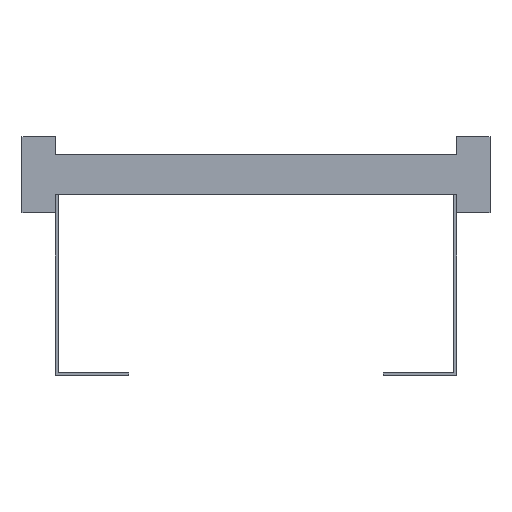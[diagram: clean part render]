
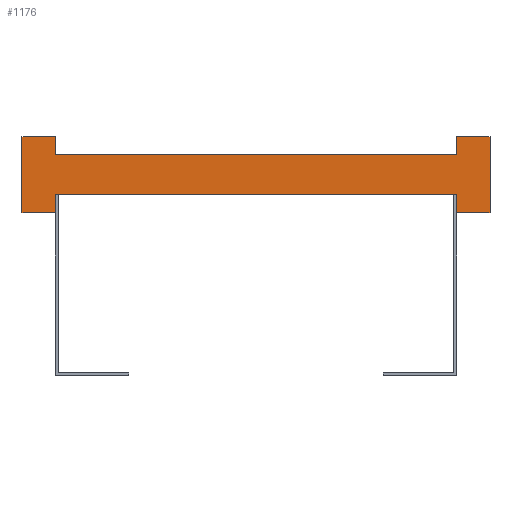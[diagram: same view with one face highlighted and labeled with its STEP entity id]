
A CAD part, front view. The second image highlights one B-rep face of the part: STEP entity #1176.
In plain terms, the highlighted planar face has unit normal (0, -1, 0).
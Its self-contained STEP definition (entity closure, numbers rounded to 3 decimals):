
#1=DIRECTION('',(0.,0.,1.));
#2=VECTOR('',#1,13.5);
#3=CARTESIAN_POINT('',(150.,0.,-28.5));
#4=LINE('',#3,#2);
#5=DIRECTION('',(0.,0.,-1.));
#6=VECTOR('',#5,13.5);
#7=CARTESIAN_POINT('',(-150.,0.,-15.));
#8=LINE('',#7,#6);
#9=DIRECTION('',(-1.,0.,0.));
#10=VECTOR('',#9,25.);
#11=CARTESIAN_POINT('',(-150.,0.,-28.5));
#12=LINE('',#11,#10);
#13=DIRECTION('',(0.,0.,1.));
#14=VECTOR('',#13,57.);
#15=CARTESIAN_POINT('',(-175.,0.,-28.5));
#16=LINE('',#15,#14);
#17=DIRECTION('',(1.,0.,0.));
#18=VECTOR('',#17,25.);
#19=CARTESIAN_POINT('',(-175.,0.,28.5));
#20=LINE('',#19,#18);
#21=DIRECTION('',(0.,0.,-1.));
#22=VECTOR('',#21,13.5);
#23=CARTESIAN_POINT('',(-150.,0.,28.5));
#24=LINE('',#23,#22);
#25=DIRECTION('',(0.,0.,1.));
#26=VECTOR('',#25,13.5);
#27=CARTESIAN_POINT('',(150.,0.,15.));
#28=LINE('',#27,#26);
#29=DIRECTION('',(1.,0.,0.));
#30=VECTOR('',#29,25.);
#31=CARTESIAN_POINT('',(150.,0.,28.5));
#32=LINE('',#31,#30);
#33=DIRECTION('',(0.,0.,-1.));
#34=VECTOR('',#33,57.);
#35=CARTESIAN_POINT('',(175.,0.,28.5));
#36=LINE('',#35,#34);
#37=DIRECTION('',(-1.,0.,0.));
#38=VECTOR('',#37,25.);
#39=CARTESIAN_POINT('',(175.,0.,-28.5));
#40=LINE('',#39,#38);
#849=DIRECTION('',(1.,0.,0.));
#850=VECTOR('',#849,300.);
#851=CARTESIAN_POINT('',(-150.,0.,-15.));
#852=LINE('',#851,#850);
#861=DIRECTION('',(1.,0.,0.));
#862=VECTOR('',#861,300.);
#863=CARTESIAN_POINT('',(-150.,0.,15.));
#864=LINE('',#863,#862);
#865=CARTESIAN_POINT('',(-175.,0.,28.5));
#866=CARTESIAN_POINT('',(-150.,0.,28.5));
#867=VERTEX_POINT('',#865);
#868=VERTEX_POINT('',#866);
#869=CARTESIAN_POINT('',(-150.,0.,-28.5));
#870=CARTESIAN_POINT('',(-175.,0.,-28.5));
#871=VERTEX_POINT('',#869);
#872=VERTEX_POINT('',#870);
#873=CARTESIAN_POINT('',(175.,0.,28.5));
#874=CARTESIAN_POINT('',(175.,0.,-28.5));
#875=VERTEX_POINT('',#873);
#876=VERTEX_POINT('',#874);
#877=CARTESIAN_POINT('',(150.,0.,-28.5));
#878=VERTEX_POINT('',#877);
#879=CARTESIAN_POINT('',(150.,0.,28.5));
#880=VERTEX_POINT('',#879);
#897=CARTESIAN_POINT('',(-150.,0.,-15.));
#899=VERTEX_POINT('',#897);
#901=CARTESIAN_POINT('',(-150.,0.,15.));
#903=VERTEX_POINT('',#901);
#905=CARTESIAN_POINT('',(150.,0.,-15.));
#907=VERTEX_POINT('',#905);
#909=CARTESIAN_POINT('',(150.,0.,15.));
#911=VERTEX_POINT('',#909);
#1145=CARTESIAN_POINT('',(0.,0.,0.));
#1146=DIRECTION('',(0.,1.,0.));
#1147=DIRECTION('',(1.,0.,0.));
#1148=AXIS2_PLACEMENT_3D('',#1145,#1146,#1147);
#1149=PLANE('',#1148);
#1151=ORIENTED_EDGE('',*,*,#1150,.T.);
#1153=ORIENTED_EDGE('',*,*,#1152,.F.);
#1155=ORIENTED_EDGE('',*,*,#1154,.T.);
#1157=ORIENTED_EDGE('',*,*,#1156,.T.);
#1159=ORIENTED_EDGE('',*,*,#1158,.T.);
#1161=ORIENTED_EDGE('',*,*,#1160,.T.);
#1163=ORIENTED_EDGE('',*,*,#1162,.T.);
#1165=ORIENTED_EDGE('',*,*,#1164,.T.);
#1167=ORIENTED_EDGE('',*,*,#1166,.T.);
#1169=ORIENTED_EDGE('',*,*,#1168,.T.);
#1171=ORIENTED_EDGE('',*,*,#1170,.T.);
#1173=ORIENTED_EDGE('',*,*,#1172,.T.);
#1174=EDGE_LOOP('',(#1151,#1153,#1155,#1157,#1159,#1161,#1163,#1165,#1167,#1169,
#1171,#1173));
#1175=FACE_OUTER_BOUND('',#1174,.F.);
#1176=ADVANCED_FACE('',(#1175),#1149,.F.);
#1150=EDGE_CURVE('',#878,#907,#4,.T.);
#1152=EDGE_CURVE('',#899,#907,#852,.T.);
#1154=EDGE_CURVE('',#899,#871,#8,.T.);
#1156=EDGE_CURVE('',#871,#872,#12,.T.);
#1158=EDGE_CURVE('',#872,#867,#16,.T.);
#1160=EDGE_CURVE('',#867,#868,#20,.T.);
#1162=EDGE_CURVE('',#868,#903,#24,.T.);
#1164=EDGE_CURVE('',#903,#911,#864,.T.);
#1166=EDGE_CURVE('',#911,#880,#28,.T.);
#1168=EDGE_CURVE('',#880,#875,#32,.T.);
#1170=EDGE_CURVE('',#875,#876,#36,.T.);
#1172=EDGE_CURVE('',#876,#878,#40,.T.);
